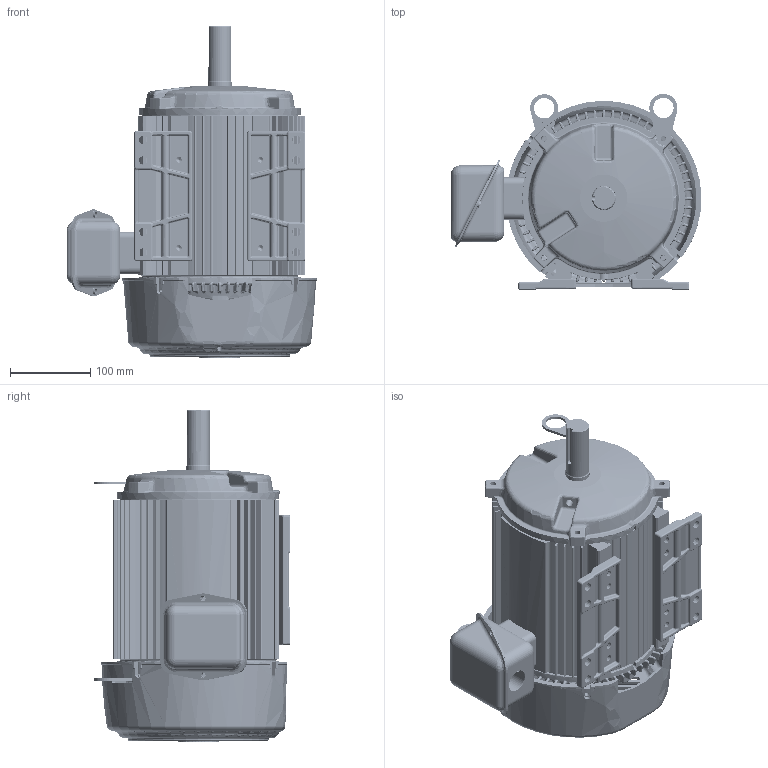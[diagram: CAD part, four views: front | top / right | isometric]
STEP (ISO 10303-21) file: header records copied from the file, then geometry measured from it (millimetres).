
FILE_DESCRIPTION((''),'2;1');
FILE_NAME('STD_SHORT_NON_FLNG_ASM','2019-11-14T10:14:54',('EMD2341'),('Nidec Motor Corporation'),'CREO PARAMETRIC BY PTC INC, 2018300','CREO PARAMETRIC BY PTC INC, 2018300','');
FILE_SCHEMA(('CONFIG_CONTROL_DESIGN'));
Length unit declared in the file: inch
Products named in the file (17): 0390926_AF0; 0374476; 0382071-BKT_AF1; 0298010_AF1; 0384147_ASM; 0361253-BKT_AF17; 0910238_AF2; 0361254_ASM; 0362988; 0361265; 0541983; 0027197; 0919846; 0390920; 0390928; 0390417; STD_SHORT_NON_FLNG_ASM
Assembly tree (18 placements, depth 3):
  STD_SHORT_NON_FLNG_ASM
    0390926_AF0
    0374476  x2
    0384147_ASM
      0382071-BKT_AF1
      0298010_AF1
    0361254_ASM
      0361253-BKT_AF17
      0910238_AF2
    0362988  x2
    0361265
    0541983
    0027197
    0919846
    0390920
    0390928
    0390417
Bounding box: 311.96 x 243.57 x 412.78 mm (x, y, z)
Volume: 2145773.4 mm3; surface area: 1054895.7 mm2
Topology: 18 solids, 20 shells, 5496 faces, 13144 edges, 7641 vertices
Faces by surface type: bspline 2414, cylinder 1247, plane 979, torus 385, cone 265, sphere 206
Entity records: 282532 total; most frequent: CARTESIAN_POINT 179066, ORIENTED_EDGE 24672, DIRECTION 17649, EDGE_CURVE 12340, AXIS2_PLACEMENT_3D 7452, VERTEX_POINT 7207, EDGE_LOOP 5319, FACE_OUTER_BOUND 5154
